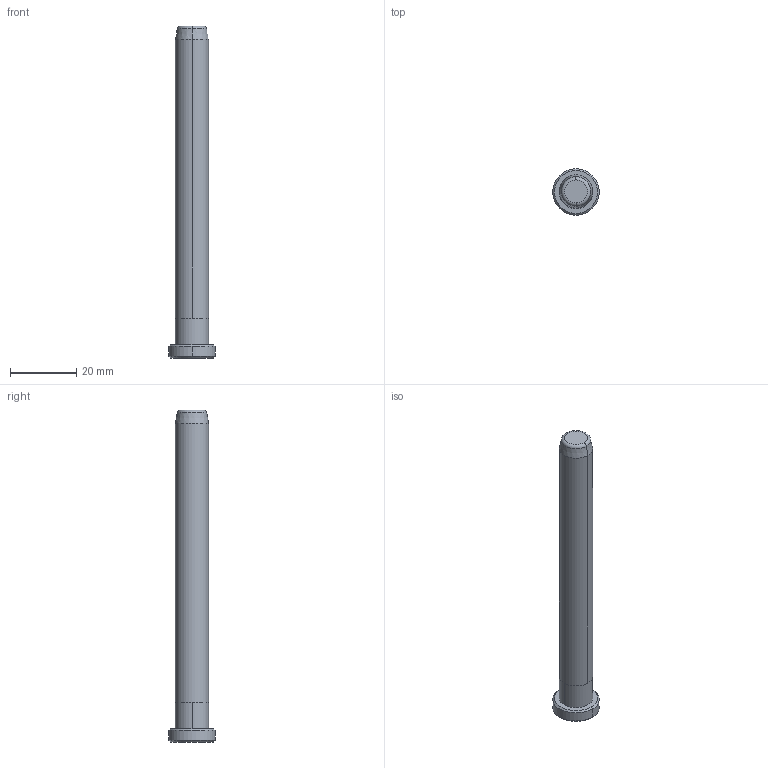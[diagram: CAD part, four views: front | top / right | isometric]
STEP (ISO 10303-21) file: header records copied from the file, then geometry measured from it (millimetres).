
FILE_DESCRIPTION((''),'2;1');
FILE_NAME('B80810100','2018-01-06T',('MANU'),(''),'PRO/ENGINEER BY PARAMETRIC TECHNOLOGY CORPORATION, 2012130','PRO/ENGINEER BY PARAMETRIC TECHNOLOGY CORPORATION, 2012130','');
FILE_SCHEMA(('CONFIG_CONTROL_DESIGN'));
Length unit declared in the file: millimetre
Products named in the file (1): B80810100
Bounding box: 14 x 14 x 100 mm (x, y, z)
Volume: 8104 mm3; surface area: 3438.7 mm2
Topology: 1 solids, 1 shells, 18 faces, 34 edges, 20 vertices
Faces by surface type: cone 6, cylinder 6, plane 4, torus 2
Entity records: 494 total; most frequent: DIRECTION 92, CARTESIAN_POINT 72, ORIENTED_EDGE 68, AXIS2_PLACEMENT_3D 40, EDGE_CURVE 34, CIRCLE 22, VERTEX_POINT 20, EDGE_LOOP 20
